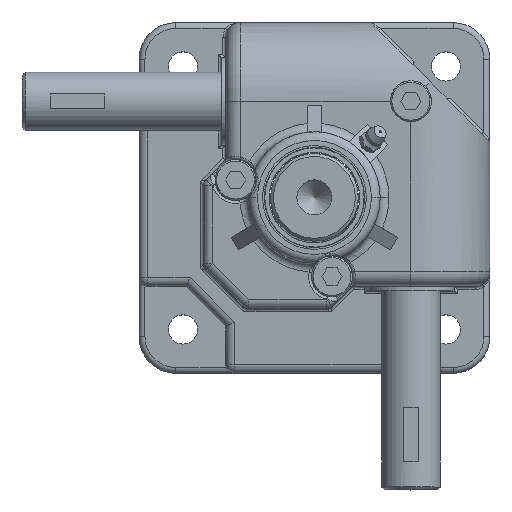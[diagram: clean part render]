
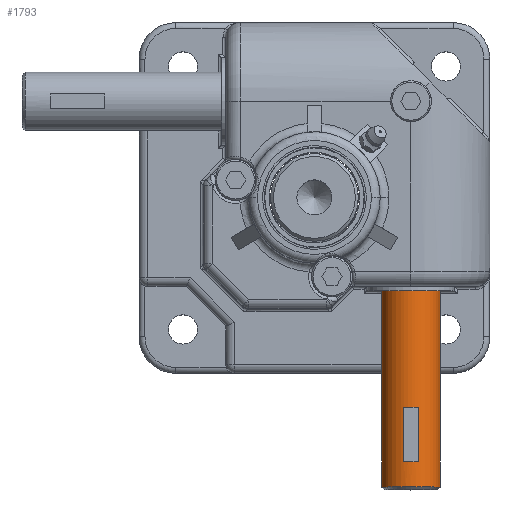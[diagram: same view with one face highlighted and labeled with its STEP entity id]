
A CAD part, top view. The second image highlights one B-rep face of the part: STEP entity #1793.
In plain terms, the highlighted cylindrical face has radius 10 mm (diameter 20 mm), a full revolution.
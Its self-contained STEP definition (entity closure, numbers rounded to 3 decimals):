
#1793=ADVANCED_FACE('',(#4784,#4785,#4786,#4787),#4788,.T.);
#4784=FACE_OUTER_BOUND('',#9944,.T.);
#4785=FACE_OUTER_BOUND('',#9945,.T.);
#4786=FACE_BOUND('',#9946,.T.);
#4787=FACE_BOUND('',#9947,.T.);
#4788=CYLINDRICAL_SURFACE('',#9948,10.0);
#9944=EDGE_LOOP('',(#22039));
#9945=EDGE_LOOP('',(#22040));
#9946=EDGE_LOOP('',(#22041,#22042,#22043,#22044));
#9947=EDGE_LOOP('',(#22045,#22046,#22047,#22048));
#9948=AXIS2_PLACEMENT_3D('',#22049,#22050,#22051);
#22039=ORIENTED_EDGE('',*,*,#41394,.F.);
#22040=ORIENTED_EDGE('',*,*,#41395,.T.);
#22041=ORIENTED_EDGE('',*,*,#41396,.F.);
#22042=ORIENTED_EDGE('',*,*,#41387,.F.);
#22043=ORIENTED_EDGE('',*,*,#41397,.T.);
#22044=ORIENTED_EDGE('',*,*,#41389,.T.);
#22045=ORIENTED_EDGE('',*,*,#41398,.F.);
#22046=ORIENTED_EDGE('',*,*,#41391,.F.);
#22047=ORIENTED_EDGE('',*,*,#41399,.T.);
#22048=ORIENTED_EDGE('',*,*,#41393,.T.);
#22049=CARTESIAN_POINT('',(0.0,0.0,0.0));
#22050=DIRECTION('',(1.0,-0.0,0.));
#22051=DIRECTION('',(0.0,1.0,0.0));
#41387=EDGE_CURVE('',#50581,#50584,#50585,.F.);
#41389=EDGE_CURVE('',#50582,#50586,#50588,.F.);
#41391=EDGE_CURVE('',#50589,#50592,#50593,.F.);
#41393=EDGE_CURVE('',#50590,#50594,#50596,.F.);
#41394=EDGE_CURVE('',#50597,#50597,#50598,.T.);
#41395=EDGE_CURVE('',#50599,#50599,#50600,.T.);
#41396=EDGE_CURVE('',#50584,#50586,#50601,.T.);
#41397=EDGE_CURVE('',#50581,#50582,#50602,.T.);
#41398=EDGE_CURVE('',#50592,#50594,#50603,.T.);
#41399=EDGE_CURVE('',#50589,#50590,#50604,.T.);
#50581=VERTEX_POINT('',#67749);
#50582=VERTEX_POINT('',#67750);
#50584=VERTEX_POINT('',#67752);
#50585=B_SPLINE_CURVE_WITH_KNOTS('',3,(#67753,#67754,#67755,#67756,#67757,#67758,#67759,#67760,#67761,#67762),.UNSPECIFIED.,.F.,.F.,(4,2,2,2,4),(0.045,0.046,0.047,0.048,0.05),.UNSPECIFIED.);
#50586=VERTEX_POINT('',#67763);
#50588=B_SPLINE_CURVE_WITH_KNOTS('',3,(#67765,#67766,#67767,#67768,#67769,#67770,#67771,#67772),.UNSPECIFIED.,.F.,.F.,(4,2,2,4),(0.06,0.062,0.063,0.065),.UNSPECIFIED.);
#50589=VERTEX_POINT('',#67773);
#50590=VERTEX_POINT('',#67774);
#50592=VERTEX_POINT('',#67776);
#50593=B_SPLINE_CURVE_WITH_KNOTS('',3,(#67777,#67778,#67779,#67780,#67781,#67782,#67783,#67784,#67785,#67786),.UNSPECIFIED.,.F.,.F.,(4,2,2,2,4),(0.045,0.046,0.047,0.048,0.05),.UNSPECIFIED.);
#50594=VERTEX_POINT('',#67787);
#50596=B_SPLINE_CURVE_WITH_KNOTS('',3,(#67789,#67790,#67791,#67792,#67793,#67794,#67795,#67796),.UNSPECIFIED.,.F.,.F.,(4,2,2,4),(0.06,0.062,0.063,0.065),.UNSPECIFIED.);
#50597=VERTEX_POINT('',#67797);
#50598=CIRCLE('',#67798,10.0);
#50599=VERTEX_POINT('',#67799);
#50600=CIRCLE('',#67800,10.0);
#50601=LINE('',#67801,#67802);
#50602=LINE('',#67803,#67804);
#50603=LINE('',#67805,#67806);
#50604=LINE('',#67807,#67808);
#67749=CARTESIAN_POINT('',(39.462,-2.5,9.682));
#67750=CARTESIAN_POINT('',(22.538,-2.5,9.682));
#67752=CARTESIAN_POINT('',(39.462,2.5,9.682));
#67753=CARTESIAN_POINT('',(39.462,2.5,9.682));
#67754=CARTESIAN_POINT('',(39.515,2.096,9.787));
#67755=CARTESIAN_POINT('',(39.554,1.681,9.867));
#67756=CARTESIAN_POINT('',(39.605,0.84,9.974));
#67757=CARTESIAN_POINT('',(39.617,0.419,10.));
#67758=CARTESIAN_POINT('',(39.617,-0.421,10.));
#67759=CARTESIAN_POINT('',(39.605,-0.841,9.974));
#67760=CARTESIAN_POINT('',(39.554,-1.68,9.867));
#67761=CARTESIAN_POINT('',(39.515,-2.096,9.787));
#67762=CARTESIAN_POINT('',(39.462,-2.5,9.682));
#67763=CARTESIAN_POINT('',(22.538,2.5,9.682));
#67765=CARTESIAN_POINT('',(22.538,2.5,9.682));
#67766=CARTESIAN_POINT('',(22.484,2.095,9.787));
#67767=CARTESIAN_POINT('',(22.446,1.683,9.866));
#67768=CARTESIAN_POINT('',(22.396,0.846,9.973));
#67769=CARTESIAN_POINT('',(22.383,0.419,10.));
#67770=CARTESIAN_POINT('',(22.383,-0.857,9.999));
#67771=CARTESIAN_POINT('',(22.431,-1.688,9.892));
#67772=CARTESIAN_POINT('',(22.538,-2.5,9.682));
#67773=CARTESIAN_POINT('',(-22.538,-2.5,9.682));
#67774=CARTESIAN_POINT('',(-39.462,-2.5,9.682));
#67776=CARTESIAN_POINT('',(-22.538,2.5,9.682));
#67777=CARTESIAN_POINT('',(-22.538,2.5,9.682));
#67778=CARTESIAN_POINT('',(-22.485,2.096,9.787));
#67779=CARTESIAN_POINT('',(-22.446,1.681,9.867));
#67780=CARTESIAN_POINT('',(-22.395,0.84,9.974));
#67781=CARTESIAN_POINT('',(-22.383,0.419,10.));
#67782=CARTESIAN_POINT('',(-22.383,-0.421,10.));
#67783=CARTESIAN_POINT('',(-22.395,-0.841,9.974));
#67784=CARTESIAN_POINT('',(-22.446,-1.68,9.867));
#67785=CARTESIAN_POINT('',(-22.485,-2.096,9.787));
#67786=CARTESIAN_POINT('',(-22.538,-2.5,9.682));
#67787=CARTESIAN_POINT('',(-39.462,2.5,9.682));
#67789=CARTESIAN_POINT('',(-39.462,2.5,9.682));
#67790=CARTESIAN_POINT('',(-39.516,2.095,9.787));
#67791=CARTESIAN_POINT('',(-39.554,1.683,9.866));
#67792=CARTESIAN_POINT('',(-39.604,0.846,9.973));
#67793=CARTESIAN_POINT('',(-39.617,0.419,10.));
#67794=CARTESIAN_POINT('',(-39.617,-0.857,9.999));
#67795=CARTESIAN_POINT('',(-39.569,-1.688,9.892));
#67796=CARTESIAN_POINT('',(-39.462,-2.5,9.682));
#67797=CARTESIAN_POINT('',(49.0,10.0,0.));
#67798=AXIS2_PLACEMENT_3D('',#95283,#95284,#95285);
#67799=CARTESIAN_POINT('',(-49.0,10.0,0.));
#67800=AXIS2_PLACEMENT_3D('',#95286,#95287,#95288);
#67801=CARTESIAN_POINT('',(31.0,2.5,9.682));
#67802=VECTOR('',#95289,1.0);
#67803=CARTESIAN_POINT('',(31.0,-2.5,9.682));
#67804=VECTOR('',#95290,1.0);
#67805=CARTESIAN_POINT('',(-31.0,2.5,9.682));
#67806=VECTOR('',#95291,1.0);
#67807=CARTESIAN_POINT('',(-31.0,-2.5,9.682));
#67808=VECTOR('',#95292,1.0);
#95283=CARTESIAN_POINT('',(49.0,0.,0.));
#95284=DIRECTION('',(1.0,0.,0.));
#95285=DIRECTION('',(0.,1.0,0.));
#95286=CARTESIAN_POINT('',(-49.0,0.0,0.));
#95287=DIRECTION('',(1.0,-0.0,0.));
#95288=DIRECTION('',(0.0,1.0,0.0));
#95289=DIRECTION('',(-1.0,0.0,0.0));
#95290=DIRECTION('',(-1.0,0.0,0.0));
#95291=DIRECTION('',(-1.0,0.0,0.0));
#95292=DIRECTION('',(-1.0,0.0,0.0));
